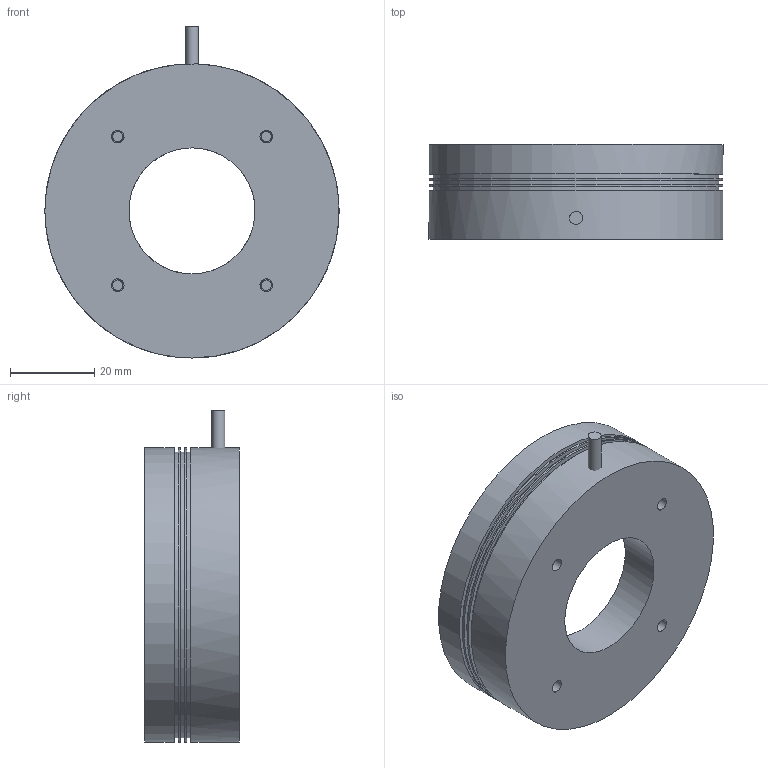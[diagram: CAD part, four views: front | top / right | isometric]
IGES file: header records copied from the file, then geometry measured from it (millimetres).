
Global section: file name: 153-00731_LR 70 x-24-KFL5; native system: Autodesk Inventor 2018; preprocessor: unknown; author: ss; date: 20180725.085932; units: millimetre
Bounding box: 70 x 22.5 x 79 mm (x, y, z)
Volume: 34988.5 mm3; surface area: 17493.2 mm2
Topology: 8 solids, 8 shells, 121 faces, 294 edges, 229 vertices
Faces by surface type: bspline 121
